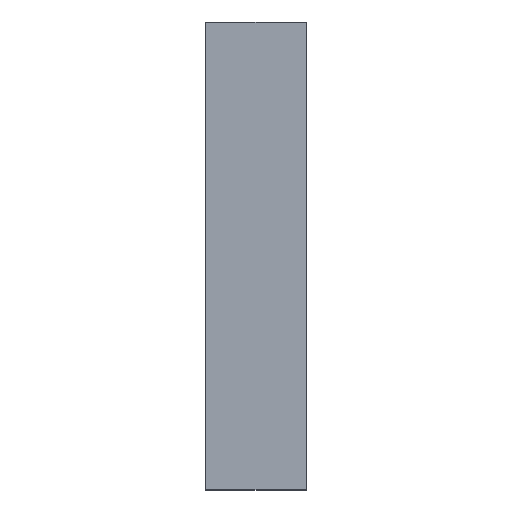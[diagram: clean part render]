
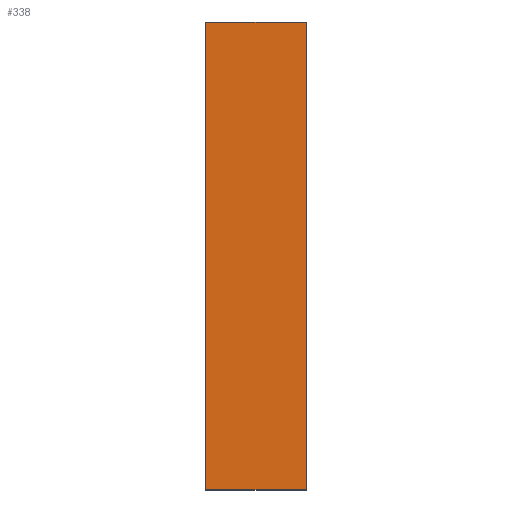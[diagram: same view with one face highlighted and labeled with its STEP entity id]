
A CAD part, top view. The second image highlights one B-rep face of the part: STEP entity #338.
In plain terms, the highlighted planar face has unit normal (0, 0, 1).
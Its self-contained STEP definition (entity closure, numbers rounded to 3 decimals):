
#24 = VERTEX_POINT('',#25);
#25 = CARTESIAN_POINT('',(-10.2,-34.2,-22.05));
#32 = PLANE('',#33);
#33 = AXIS2_PLACEMENT_3D('',#34,#35,#36);
#34 = CARTESIAN_POINT('',(-10.2,-34.2,-22.1));
#35 = DIRECTION('',(1.,0.,-0.));
#36 = DIRECTION('',(0.,0.,1.));
#44 = PLANE('',#45);
#45 = AXIS2_PLACEMENT_3D('',#46,#47,#48);
#46 = CARTESIAN_POINT('',(-10.2,-34.2,-22.1));
#47 = DIRECTION('',(-0.,1.,0.));
#48 = DIRECTION('',(0.,0.,1.));
#85 = VERTEX_POINT('',#86);
#86 = CARTESIAN_POINT('',(-10.2,61.2,-22.05));
#100 = PLANE('',#101);
#101 = AXIS2_PLACEMENT_3D('',#102,#103,#104);
#102 = CARTESIAN_POINT('',(-10.2,61.2,-22.1));
#103 = DIRECTION('',(-0.,1.,0.));
#104 = DIRECTION('',(0.,0.,1.));
#112 = EDGE_CURVE('',#24,#85,#113,.T.);
#113 = SURFACE_CURVE('',#114,(#118,#125),.PCURVE_S1.);
#114 = LINE('',#115,#116);
#115 = CARTESIAN_POINT('',(-10.2,-34.2,-22.05));
#116 = VECTOR('',#117,1.);
#117 = DIRECTION('',(-0.,1.,0.));
#118 = PCURVE('',#32,#119);
#119 = DEFINITIONAL_REPRESENTATION('',(#120),#124);
#120 = LINE('',#121,#122);
#121 = CARTESIAN_POINT('',(0.05,0.));
#122 = VECTOR('',#123,1.);
#123 = DIRECTION('',(0.,-1.));
#124 = ( GEOMETRIC_REPRESENTATION_CONTEXT(2) 
PARAMETRIC_REPRESENTATION_CONTEXT() REPRESENTATION_CONTEXT('2D SPACE',''
  ) );
#125 = PCURVE('',#126,#131);
#126 = PLANE('',#127);
#127 = AXIS2_PLACEMENT_3D('',#128,#129,#130);
#128 = CARTESIAN_POINT('',(-10.2,-34.2,-22.05));
#129 = DIRECTION('',(0.,0.,1.));
#130 = DIRECTION('',(1.,0.,-0.));
#131 = DEFINITIONAL_REPRESENTATION('',(#132),#136);
#132 = LINE('',#133,#134);
#133 = CARTESIAN_POINT('',(0.,0.));
#134 = VECTOR('',#135,1.);
#135 = DIRECTION('',(0.,1.));
#136 = ( GEOMETRIC_REPRESENTATION_CONTEXT(2) 
PARAMETRIC_REPRESENTATION_CONTEXT() REPRESENTATION_CONTEXT('2D SPACE',''
  ) );
#144 = VERTEX_POINT('',#145);
#145 = CARTESIAN_POINT('',(10.2,-34.2,-22.05));
#152 = PLANE('',#153);
#153 = AXIS2_PLACEMENT_3D('',#154,#155,#156);
#154 = CARTESIAN_POINT('',(10.2,-34.2,-22.1));
#155 = DIRECTION('',(1.,0.,-0.));
#156 = DIRECTION('',(0.,0.,1.));
#195 = VERTEX_POINT('',#196);
#196 = CARTESIAN_POINT('',(10.2,61.2,-22.05));
#217 = EDGE_CURVE('',#144,#195,#218,.T.);
#218 = SURFACE_CURVE('',#219,(#223,#230),.PCURVE_S1.);
#219 = LINE('',#220,#221);
#220 = CARTESIAN_POINT('',(10.2,-34.2,-22.05));
#221 = VECTOR('',#222,1.);
#222 = DIRECTION('',(-0.,1.,0.));
#223 = PCURVE('',#152,#224);
#224 = DEFINITIONAL_REPRESENTATION('',(#225),#229);
#225 = LINE('',#226,#227);
#226 = CARTESIAN_POINT('',(0.05,0.));
#227 = VECTOR('',#228,1.);
#228 = DIRECTION('',(0.,-1.));
#229 = ( GEOMETRIC_REPRESENTATION_CONTEXT(2) 
PARAMETRIC_REPRESENTATION_CONTEXT() REPRESENTATION_CONTEXT('2D SPACE',''
  ) );
#230 = PCURVE('',#126,#231);
#231 = DEFINITIONAL_REPRESENTATION('',(#232),#236);
#232 = LINE('',#233,#234);
#233 = CARTESIAN_POINT('',(20.4,0.));
#234 = VECTOR('',#235,1.);
#235 = DIRECTION('',(0.,1.));
#236 = ( GEOMETRIC_REPRESENTATION_CONTEXT(2) 
PARAMETRIC_REPRESENTATION_CONTEXT() REPRESENTATION_CONTEXT('2D SPACE',''
  ) );
#263 = EDGE_CURVE('',#24,#144,#264,.T.);
#264 = SURFACE_CURVE('',#265,(#269,#276),.PCURVE_S1.);
#265 = LINE('',#266,#267);
#266 = CARTESIAN_POINT('',(-10.2,-34.2,-22.05));
#267 = VECTOR('',#268,1.);
#268 = DIRECTION('',(1.,0.,-0.));
#269 = PCURVE('',#44,#270);
#270 = DEFINITIONAL_REPRESENTATION('',(#271),#275);
#271 = LINE('',#272,#273);
#272 = CARTESIAN_POINT('',(0.05,0.));
#273 = VECTOR('',#274,1.);
#274 = DIRECTION('',(0.,1.));
#275 = ( GEOMETRIC_REPRESENTATION_CONTEXT(2) 
PARAMETRIC_REPRESENTATION_CONTEXT() REPRESENTATION_CONTEXT('2D SPACE',''
  ) );
#276 = PCURVE('',#126,#277);
#277 = DEFINITIONAL_REPRESENTATION('',(#278),#282);
#278 = LINE('',#279,#280);
#279 = CARTESIAN_POINT('',(0.,0.));
#280 = VECTOR('',#281,1.);
#281 = DIRECTION('',(1.,0.));
#282 = ( GEOMETRIC_REPRESENTATION_CONTEXT(2) 
PARAMETRIC_REPRESENTATION_CONTEXT() REPRESENTATION_CONTEXT('2D SPACE',''
  ) );
#310 = EDGE_CURVE('',#85,#195,#311,.T.);
#311 = SURFACE_CURVE('',#312,(#316,#323),.PCURVE_S1.);
#312 = LINE('',#313,#314);
#313 = CARTESIAN_POINT('',(-10.2,61.2,-22.05));
#314 = VECTOR('',#315,1.);
#315 = DIRECTION('',(1.,0.,-0.));
#316 = PCURVE('',#100,#317);
#317 = DEFINITIONAL_REPRESENTATION('',(#318),#322);
#318 = LINE('',#319,#320);
#319 = CARTESIAN_POINT('',(0.05,0.));
#320 = VECTOR('',#321,1.);
#321 = DIRECTION('',(0.,1.));
#322 = ( GEOMETRIC_REPRESENTATION_CONTEXT(2) 
PARAMETRIC_REPRESENTATION_CONTEXT() REPRESENTATION_CONTEXT('2D SPACE',''
  ) );
#323 = PCURVE('',#126,#324);
#324 = DEFINITIONAL_REPRESENTATION('',(#325),#329);
#325 = LINE('',#326,#327);
#326 = CARTESIAN_POINT('',(0.,95.4));
#327 = VECTOR('',#328,1.);
#328 = DIRECTION('',(1.,0.));
#329 = ( GEOMETRIC_REPRESENTATION_CONTEXT(2) 
PARAMETRIC_REPRESENTATION_CONTEXT() REPRESENTATION_CONTEXT('2D SPACE',''
  ) );
#338 = ADVANCED_FACE('',(#339),#126,.T.);
#339 = FACE_BOUND('',#340,.T.);
#340 = EDGE_LOOP('',(#341,#342,#343,#344));
#341 = ORIENTED_EDGE('',*,*,#112,.F.);
#342 = ORIENTED_EDGE('',*,*,#263,.T.);
#343 = ORIENTED_EDGE('',*,*,#217,.T.);
#344 = ORIENTED_EDGE('',*,*,#310,.F.);
